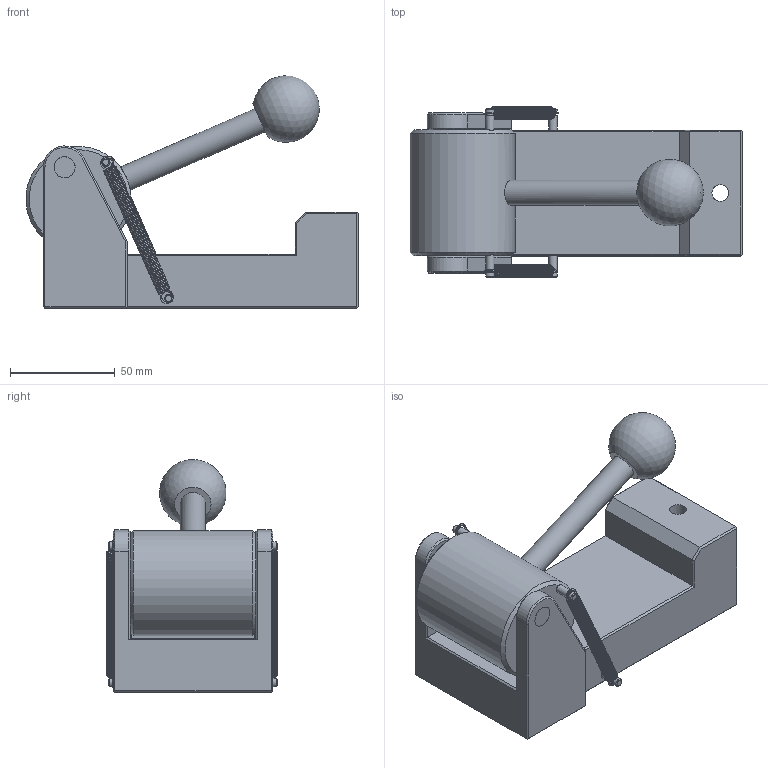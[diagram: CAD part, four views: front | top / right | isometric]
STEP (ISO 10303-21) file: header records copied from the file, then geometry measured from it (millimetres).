
FILE_DESCRIPTION((''),'2;1');
FILE_NAME('F:\CAD files\Itr\3D MARKETING MODELS\GRIPS\G1094\G1094.stp','2017-06-01T11:42:29',('mlampen'),(''),'Autodesk Inventor 2010','Autodesk Inventor 2010','');
FILE_SCHEMA(('AUTOMOTIVE_DESIGN { 1 0 10303 214 1 1 1 1 }'));
Length unit declared in the file: inch
Products named in the file (6): Assembly1; Part2; Part4; Part6; Part8; Part10
Assembly tree (5 placements, depth 2):
  Assembly1
    Part2
    Part4
    Part6
    Part8
    Part10
Bounding box: 158.19 x 81.53 x 111.01 mm (x, y, z)
Volume: 446667.2 mm3; surface area: 73547.4 mm2
Topology: 5 solids, 5 shells, 126 faces, 285 edges, 180 vertices
Faces by surface type: plane 72, cylinder 23, bspline 12, cone 10, torus 8, sphere 1
Full cylindrical faces by diameter (mm): 2.972 x4, 3.988 x8, 7.976 x2, 9.982 x4, 11.976 x1, 15.85 x1, 50.165 x1
Entity records: 53248 total; most frequent: CARTESIAN_POINT 50471, DIRECTION 562, ORIENTED_EDGE 476, EDGE_CURVE 238, AXIS2_PLACEMENT_3D 217, EDGE_LOOP 176, VERTEX_POINT 162, VECTOR 128
